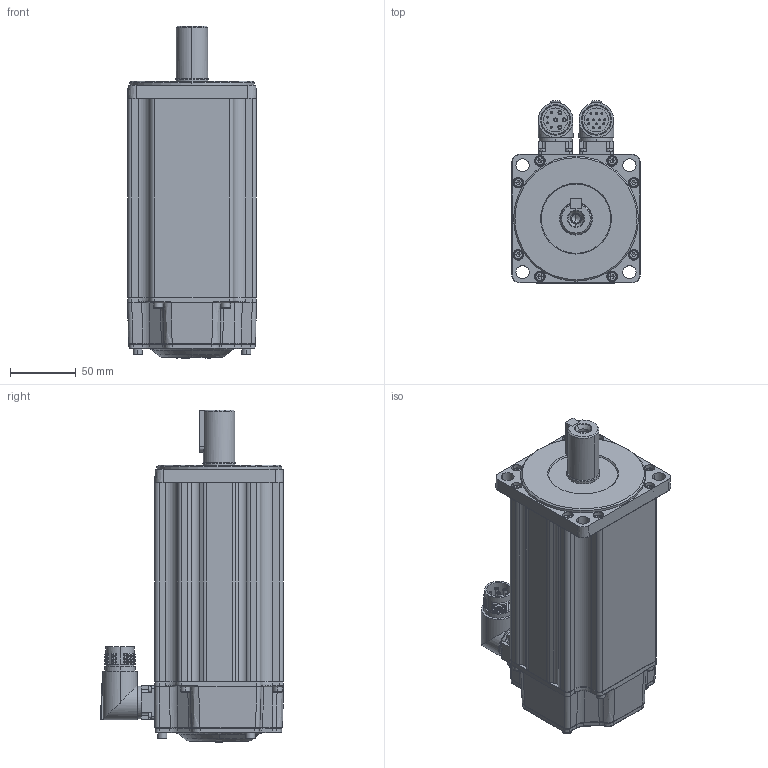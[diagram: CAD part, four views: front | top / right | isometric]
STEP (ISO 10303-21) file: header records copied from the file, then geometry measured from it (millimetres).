
FILE_DESCRIPTION (( 'STEP AP203' ), '1' );
FILE_NAME ('MC20-100-3L30-N252-0¡õPK-NNNN.STEP', '2025-05-04T13:26:40', ( '' ), ( '' ), 'SwSTEP 2.0', 'SolidWorks 2014', '' );
FILE_SCHEMA (( 'CONFIG_CONTROL_DESIGN' ));
Products named in the file (1): MC20-100-3L30-N252-0¡õPK-NNNN
Bounding box: 98.04 x 139.27 x 252.49 mm (x, y, z)
Volume: 1900940.4 mm3; surface area: 212161.9 mm2
Topology: 32 solids, 32 shells, 2072 faces, 4810 edges, 2855 vertices
Faces by surface type: plane 768, cylinder 544, cone 362, bspline 211, torus 182, sphere 5
Entity records: 64693 total; most frequent: CARTESIAN_POINT 18778, DIRECTION 9678, ORIENTED_EDGE 9432, EDGE_CURVE 4716, AXIS2_PLACEMENT_3D 3775, VERTEX_POINT 2855, EDGE_LOOP 2291, LINE 2128
